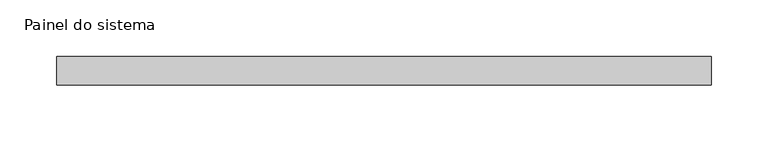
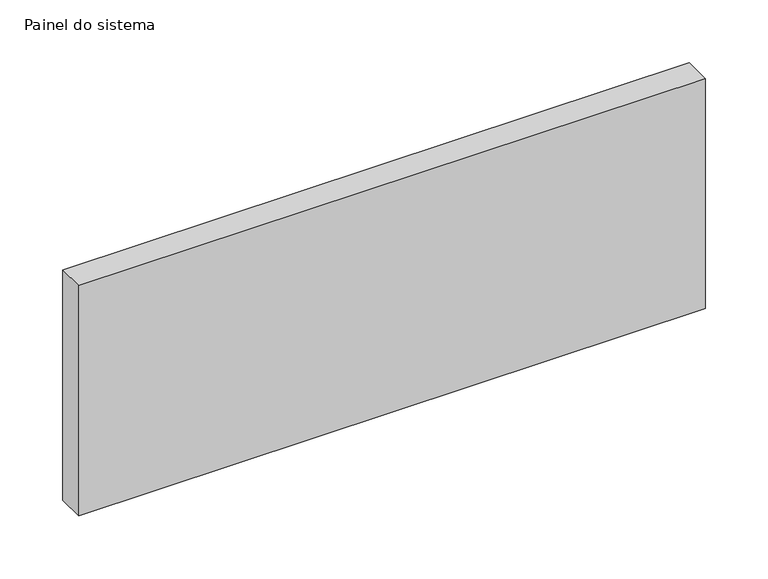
"""IFC4 building model written with IfcOpenShell, lengths in millimetres: plate geometry, Painel do sistema : Envidraçado."""

from ifc_helpers import new_model, si_unit, origin, origin_with_axes, place, context, project, spatial, polyline, outline, extrude, source, transform, mapped, element, save


def painel_do_sistema_c08878a4(model_context):
    return source(origin(), model_context, "Body", "SweptSolid", [
        extrude(outline(polyline([(287.5002289, 24.5), (-287.5002289, 24.5), (-287.5002289, 49.5), (287.5002289, 49.5), (287.5002289, 24.5)])), origin_with_axes(), (0.0, 0.0, 1.0), 223.6217085),
    ])


if __name__ == "__main__":
    model = new_model("IFC4")
    model_context = context("Model", 3, world=origin())
    ifc_project = project(units=[si_unit("LENGTHUNIT", "METRE", prefix="MILLI")], contexts=[model_context])
    site = spatial("IfcSite", under=ifc_project)
    building = spatial("IfcBuilding", under=site)
    placement = place(None, origin())
    painel_do_sistema_shape = painel_do_sistema_c08878a4(model_context)
    element("IfcPlate", 1, ObjectType="Painel do sistema : Envidraçado", at=placement, inside=building, context=model_context, shape_type="MappedRepresentation", body=[
        mapped(painel_do_sistema_shape, transform((0.0, 0.0, 0.0), x_axis=(1.0, 0.0, 0.0), y_axis=(0.0, 1.0, 0.0), z_axis=(0.0, 0.0, 1.0))),
    ])
    save(model, "model.ifc")
